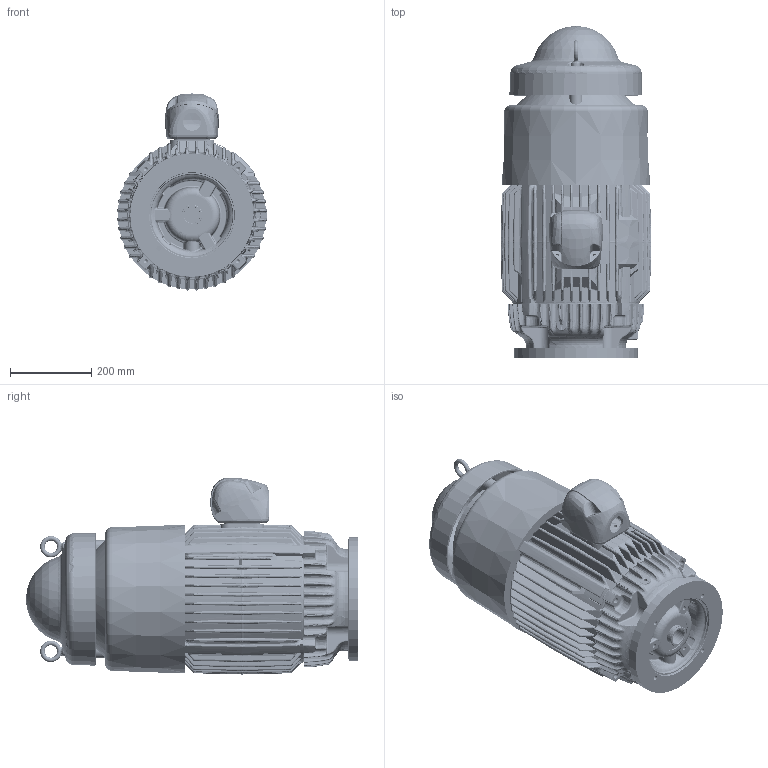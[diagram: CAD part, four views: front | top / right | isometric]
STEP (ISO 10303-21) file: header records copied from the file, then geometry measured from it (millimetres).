
FILE_DESCRIPTION((''),'2;1');
FILE_NAME('280HP_TVCS_ASM','2019-02-19T10:04:04',('EMD2341'),('Nidec Motor Corporation'),'CREO PARAMETRIC BY PTC INC, 2018300','CREO PARAMETRIC BY PTC INC, 2018300','');
FILE_SCHEMA(('CONFIG_CONTROL_DESIGN'));
Products named in the file (11): 0945029; 0075957; 0075958; 0725183; 0921862; 0165875-CVR; 0116765-CAP; 0123805; 0116911; SHAFT; 280HP_TVCS_ASM
Assembly tree (11 placements, depth 2):
  280HP_TVCS_ASM
    0945029
    0075957
    0075958
    0725183
    0921862
    0165875-CVR
    0116765-CAP
    0123805  x2
    0116911
    SHAFT
Bounding box: 370.88 x 815.57 x 484.23 mm (x, y, z)
Volume: 35542969.9 mm3; surface area: 3328714.6 mm2
Topology: 13 solids, 43 shells, 5411 faces, 13150 edges, 7768 vertices
Faces by surface type: bspline 2944, plane 930, cylinder 515, cone 393, torus 305, extrusion 240, sphere 84
Entity records: 290879 total; most frequent: CARTESIAN_POINT 189099, ORIENTED_EDGE 25941, DIRECTION 13618, EDGE_CURVE 13029, B_SPLINE_CURVE_WITH_KNOTS 7759, VERTEX_POINT 7730, AXIS2_PLACEMENT_3D 5628, EDGE_LOOP 5539
